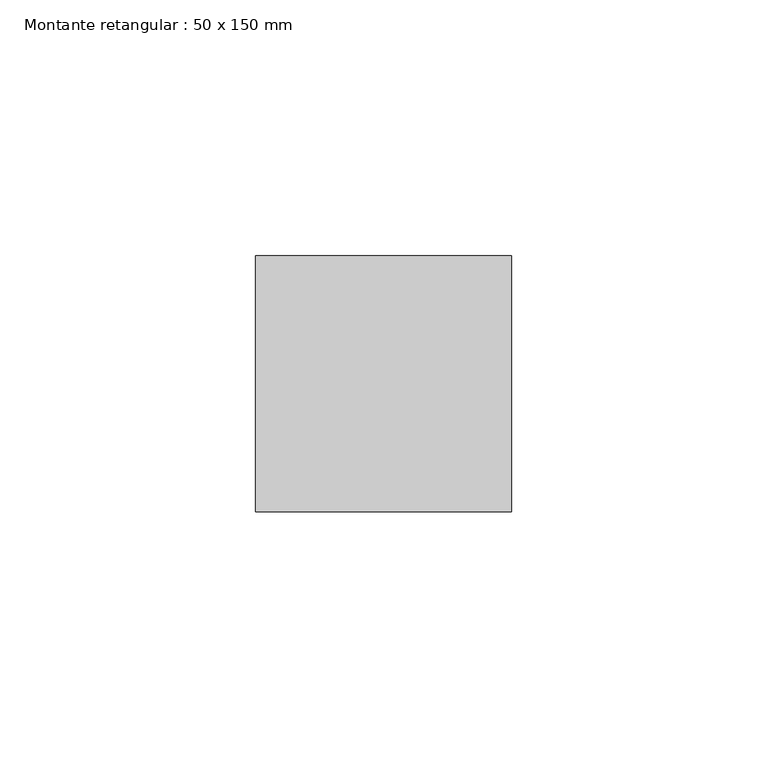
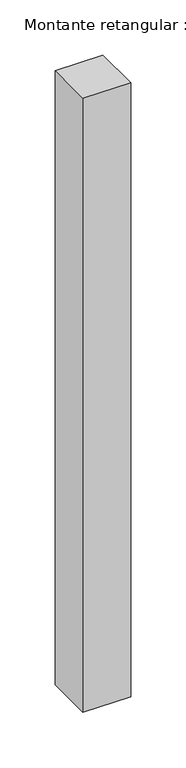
"""IFC4 building model written with IfcOpenShell, lengths in millimetres: member geometry, Montante retangular : 50 x 150 mm."""

import ifcopenshell
import ifcopenshell.guid

model = None  # the IFC model being written
_history = None  # IfcOwnerHistory: only IFC2X3 demands one
_inside = {}  # id of a spatial element -> (the spatial element, [elements in it])
_under = {}  # id of a project, library or spatial element -> (it, [spatial elements below it])
_declared = {}  # id of a project -> (the project, [libraries it declares])
_typed = {}  # id of a type object -> (the type object, [elements of that type])
_made_of = {}  # id of a material, layer set ... -> (it, [elements and type objects made of it])


def new_model(schema):
    """Start an empty IFC model of exactly this schema.

    Asked for "IFC4X3", IfcOpenShell would pick the latest addendum, in which some entities
    have other attributes; the version numbers below select the first issue.
    IFC2X3 requires an IfcOwnerHistory on every rooted entity: one is made here for all.
    """
    global model, _history
    if schema == "IFC4X3":
        model = ifcopenshell.file(schema_version=(4, 3, 0, 0))
    else:
        model = ifcopenshell.file(schema=schema)
    _inside.clear()
    _under.clear()
    _declared.clear()
    _typed.clear()
    _made_of.clear()
    _history = None
    if model.schema == "IFC2X3":
        org = make("IfcOrganization", Name="unknown")
        user = make(
            "IfcPersonAndOrganization",
            ThePerson=make("IfcPerson", FamilyName="unknown"),
            TheOrganization=org,
        )
        app = make(
            "IfcApplication",
            ApplicationDeveloper=org,
            Version="unknown",
            ApplicationFullName="unknown",
            ApplicationIdentifier="unknown",
        )
        _history = make(
            "IfcOwnerHistory",
            OwningUser=user,
            OwningApplication=app,
            ChangeAction="ADDED",
            CreationDate=0,
        )
    return model


def make(cls, **values):
    """One entity of the class cls with the attributes given. An attribute that is None is left unset."""
    return model.create_entity(
        cls, **{name: value for name, value in values.items() if value is not None}
    )


def rooted(cls, **values):
    """An entity with a GlobalId (a new one), such as an element, a storey or a relation."""
    return make(cls, GlobalId=ifcopenshell.guid.new(), OwnerHistory=_history, **values)


def si_unit(unit_type, name, prefix=None):
    """IfcSIUnit, for example si_unit("LENGTHUNIT", "METRE", prefix="MILLI")."""
    return make("IfcSIUnit", UnitType=unit_type, Prefix=prefix, Name=name)


def assignment(units):
    """IfcUnitAssignment: the units of a project."""
    return None if units is None else make("IfcUnitAssignment", Units=units)


def point(xyz):
    """IfcCartesianPoint."""
    return None if xyz is None else make("IfcCartesianPoint", Coordinates=xyz)


def direction(xyz):
    """IfcDirection."""
    return None if xyz is None else make("IfcDirection", DirectionRatios=xyz)


def frame(location, z_axis=None, x_axis=None):
    """IfcAxis2Placement3D, a coordinate frame: its origin and axes. An axis left out is left unset."""
    return make(
        "IfcAxis2Placement3D",
        Location=point(location),
        Axis=direction(z_axis),
        RefDirection=direction(x_axis),
    )


def origin():
    """The frame at (0, 0, 0) with its axes left unset."""
    return frame((0.0, 0.0, 0.0))


def place(relative_to, where):
    """IfcLocalPlacement: puts the frame where relative to a parent placement (None: the world)."""
    return make(
        "IfcLocalPlacement", PlacementRelTo=relative_to, RelativePlacement=where
    )


def context(
    kind, dimensions, precision=None, world=None, true_north=None, identifier=None
):
    """IfcGeometricRepresentationContext, for example the 3D "Model" context."""
    return make(
        "IfcGeometricRepresentationContext",
        ContextIdentifier=identifier,
        ContextType=kind,
        CoordinateSpaceDimension=dimensions,
        Precision=precision,
        WorldCoordinateSystem=world,
        TrueNorth=true_north,
    )


def project(units=None, contexts=None):
    """IfcProject with its units and contexts."""
    return rooted(
        "IfcProject",
        Name="project",
        RepresentationContexts=contexts,
        UnitsInContext=assignment(units),
    )


def spatial(cls, under=None, at=None, **own):
    """A site, building, storey or space (cls), placed at a placement, below another one or the project."""
    s = rooted(cls, ObjectPlacement=at, **own)
    if under is not None:
        _under.setdefault(under.id(), (under, []))[1].append(s)
    return s


def polyline(points):
    """IfcPolyline through the points."""
    return make("IfcPolyline", Points=[point(p) for p in points])


def outline(outer, holes=None, kind="AREA"):
    """IfcArbitraryClosedProfileDef: a profile drawn as a closed curve; with holes, ...WithVoids."""
    if holes is None:
        return make("IfcArbitraryClosedProfileDef", ProfileType=kind, OuterCurve=outer)
    return make(
        "IfcArbitraryProfileDefWithVoids",
        ProfileType=kind,
        OuterCurve=outer,
        InnerCurves=holes,
    )


def extrude(swept, where, along, depth):
    """IfcExtrudedAreaSolid: the profile swept, set in the frame where, extruded along a direction by depth."""
    return make(
        "IfcExtrudedAreaSolid",
        SweptArea=swept,
        Position=where,
        ExtrudedDirection=direction(along),
        Depth=depth,
    )


def shape(context_of_items, identifier, shape_type, items):
    """IfcShapeRepresentation: the items that make up one representation, for example the "Body"."""
    return make(
        "IfcShapeRepresentation",
        ContextOfItems=context_of_items,
        RepresentationIdentifier=identifier,
        RepresentationType=shape_type,
        Items=items,
    )


def source(mapping_origin, context_of_items, identifier, shape_type, items):
    """IfcRepresentationMap: a shape defined once, which mapped items show again and again."""
    return make(
        "IfcRepresentationMap",
        MappingOrigin=mapping_origin,
        MappedRepresentation=shape(context_of_items, identifier, shape_type, items),
    )


def transform(
    local_origin,
    x_axis=None,
    y_axis=None,
    z_axis=None,
    scale=None,
    scale2=None,
    scale3=None,
    uniform=True,
):
    """IfcCartesianTransformationOperator3D, or its non-uniform kind. x_axis, y_axis, z_axis: its Axis1, 2, 3."""
    if uniform:
        return make(
            "IfcCartesianTransformationOperator3D",
            Axis1=direction(x_axis),
            Axis2=direction(y_axis),
            LocalOrigin=point(local_origin),
            Scale=scale,
            Axis3=direction(z_axis),
        )
    return make(
        "IfcCartesianTransformationOperator3DnonUniform",
        Axis1=direction(x_axis),
        Axis2=direction(y_axis),
        LocalOrigin=point(local_origin),
        Scale=scale,
        Axis3=direction(z_axis),
        Scale2=scale2,
        Scale3=scale3,
    )


def mapped(mapping_source, mapping_target):
    """IfcMappedItem: shows the shape of a source again, moved by a transform."""
    return make(
        "IfcMappedItem", MappingSource=mapping_source, MappingTarget=mapping_target
    )


def made_of(thing, what):
    """Note that an element or type object is made of a material, layer set ...; save() writes the relation."""
    if what is not None:
        _made_of.setdefault(what.id(), (what, []))[1].append(thing)
    return thing


def element(
    cls,
    number,
    at=None,
    inside=None,
    cuts=None,
    type_object=None,
    material=None,
    context=None,
    identifier="Body",
    shape_type=None,
    held_by="IfcProductDefinitionShape",
    body=None,
    shapes=None,
    **own,
):
    """One element of the class cls, such as IfcWall. Its Tag is "e" and its number.

    at: its placement. inside: the storey or other place that contains it. cuts: it is an
    opening in that element (IfcRelVoidsElement). A single representation is given by context,
    identifier, shape_type and body (its items); several are given by shapes. held_by: the class
    of the entity that holds the representations. save() writes the other relations.
    """
    e = rooted(cls, Tag="e%d" % number, ObjectPlacement=at, **own)
    if body is not None:
        shapes = [shape(context, identifier, shape_type, body)]
    if shapes is not None:
        e.Representation = make(held_by, Representations=shapes)
    if inside is not None:
        _inside.setdefault(inside.id(), (inside, []))[1].append(e)
    if cuts is not None:
        rooted(
            "IfcRelVoidsElement", RelatingBuildingElement=cuts, RelatedOpeningElement=e
        )
    if type_object is not None:
        _typed.setdefault(type_object.id(), (type_object, []))[1].append(e)
    return made_of(e, material)


def aggregate(whole, parts):
    """IfcRelAggregates: a whole, such as a stair, and the parts it consists of."""
    return rooted("IfcRelAggregates", RelatingObject=whole, RelatedObjects=parts)


def save(model, path):
    """Write the relations noted so far, then the file.

    IfcRelAggregates (storeys below a building ...), IfcRelContainedInSpatialStructure (elements
    in a storey), IfcRelDefinesByType, IfcRelAssociatesMaterial and IfcRelDeclares: one each for
    every whole, place, type object, material and project.
    """
    for whole, parts in _under.values():
        aggregate(whole, parts)
    for where, things in _inside.values():
        rooted(
            "IfcRelContainedInSpatialStructure",
            RelatedElements=things,
            RelatingStructure=where,
        )
    for kind, things in _typed.values():
        rooted("IfcRelDefinesByType", RelatedObjects=things, RelatingType=kind)
    for what, things in _made_of.values():
        rooted("IfcRelAssociatesMaterial", RelatedObjects=things, RelatingMaterial=what)
    for by, libraries in _declared.values():
        rooted("IfcRelDeclares", RelatingContext=by, RelatedDefinitions=libraries)
    model.write(path)


def montante_retangular_50_x_150_mm_fb68b745(model_context):
    return source(origin(), model_context, "Body", "SweptSolid", [
        extrude(outline(polyline([(0.0, 25.0), (0.0, -25.0), (-50.0, -25.0), (-50.0, 25.0), (0.0, 25.0)])), frame((0.0, 0.0, -680.0), z_axis=(0.0, 0.0, 1.0), x_axis=(1.0, 0.0, 0.0)), (0.0, 0.0, 1.0), 680.0),
    ])


if __name__ == "__main__":
    model = new_model("IFC4")
    model_context = context("Model", 3, world=origin())
    ifc_project = project(units=[si_unit("LENGTHUNIT", "METRE", prefix="MILLI")], contexts=[model_context])
    site = spatial("IfcSite", under=ifc_project)
    building = spatial("IfcBuilding", under=site)
    placement = place(None, origin())
    montante_retangular_50_x_150_mm_shape = montante_retangular_50_x_150_mm_fb68b745(model_context)
    element("IfcMember", 1, ObjectType="Montante retangular : 50 x 150 mm", at=placement, inside=building, context=model_context, shape_type="MappedRepresentation", body=[
        mapped(montante_retangular_50_x_150_mm_shape, transform((0.0, 0.0, 0.0), x_axis=(1.0, 0.0, 0.0), y_axis=(0.0, 1.0, 0.0), z_axis=(0.0, 0.0, 1.0))),
    ])
    save(model, "model.ifc")
